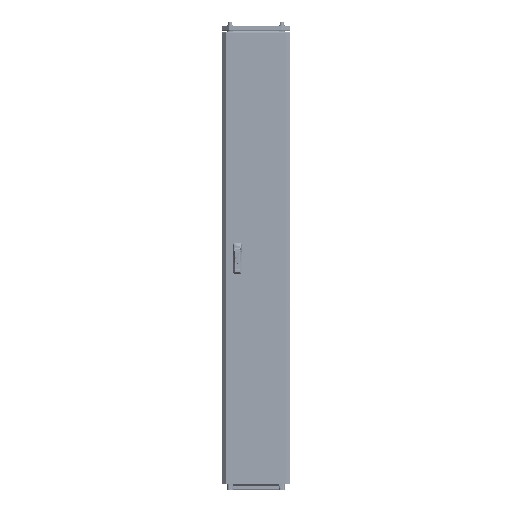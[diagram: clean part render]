
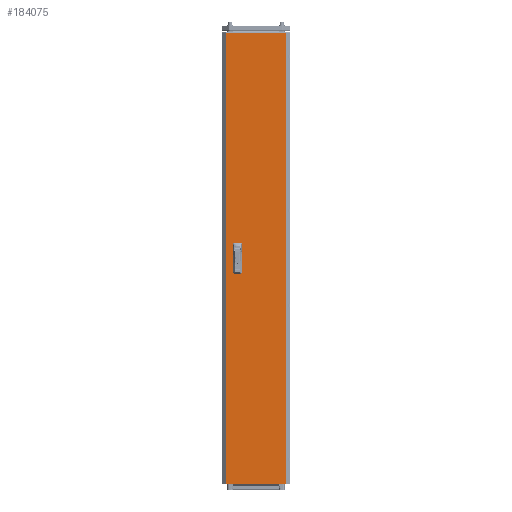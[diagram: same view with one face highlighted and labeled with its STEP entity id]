
A CAD part, top view. The second image highlights one B-rep face of the part: STEP entity #184075.
In plain terms, the highlighted planar face has unit normal (0, 0, 1).
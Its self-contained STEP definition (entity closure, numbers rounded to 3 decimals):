
#2646 = DIRECTION ( 'NONE',  ( 0., 1., 0. ) ) ;
#4007 = VERTEX_POINT ( 'NONE', #4436 ) ;
#4419 = VECTOR ( 'NONE', #153628, 1000. ) ;
#4436 = CARTESIAN_POINT ( 'NONE',  ( -92.5, 62.5, 0. ) ) ;
#4540 = LINE ( 'NONE', #79810, #70711 ) ;
#6419 = CARTESIAN_POINT ( 'NONE',  ( -127.875, 969.5, 0. ) ) ;
#6799 = VERTEX_POINT ( 'NONE', #222761 ) ;
#7492 = ORIENTED_EDGE ( 'NONE', *, *, #32430, .F. ) ;
#8464 = LINE ( 'NONE', #155420, #229746 ) ;
#10800 = EDGE_CURVE ( 'NONE', #78792, #222950, #82112, .T. ) ;
#12077 = CARTESIAN_POINT ( 'NONE',  ( -67.5, -62.5, 0. ) ) ;
#16166 = CARTESIAN_POINT ( 'NONE',  ( -92.5, -12.5, 0. ) ) ;
#17880 = ORIENTED_EDGE ( 'NONE', *, *, #205359, .F. ) ;
#17902 = EDGE_CURVE ( 'NONE', #224902, #4007, #20853, .T. ) ;
#19030 = LINE ( 'NONE', #109101, #136857 ) ;
#20853 = LINE ( 'NONE', #154090, #179262 ) ;
#21277 = DIRECTION ( 'NONE',  ( 1., 0., 0. ) ) ;
#23373 = DIRECTION ( 'NONE',  ( 1., 0., 0. ) ) ;
#24284 = ORIENTED_EDGE ( 'NONE', *, *, #64773, .T. ) ;
#24571 = ORIENTED_EDGE ( 'NONE', *, *, #105999, .F. ) ;
#24816 = EDGE_LOOP ( 'NONE', ( #36610, #24284, #226183, #145940 ) ) ;
#26596 = VERTEX_POINT ( 'NONE', #195194 ) ;
#31262 = ORIENTED_EDGE ( 'NONE', *, *, #17902, .F. ) ;
#32430 = EDGE_CURVE ( 'NONE', #124275, #120979, #171772, .T. ) ;
#35838 = VERTEX_POINT ( 'NONE', #140306 ) ;
#36610 = ORIENTED_EDGE ( 'NONE', *, *, #10800, .T. ) ;
#40170 = CARTESIAN_POINT ( 'NONE',  ( -127.875, -969.5, 0. ) ) ;
#42809 = DIRECTION ( 'NONE',  ( 0., 1., 0. ) ) ;
#45091 = CARTESIAN_POINT ( 'NONE',  ( 127.875, -969.5, 0. ) ) ;
#48321 = LINE ( 'NONE', #16166, #193373 ) ;
#48907 = CARTESIAN_POINT ( 'NONE',  ( -92.5, -62.5, 0. ) ) ;
#51873 = FACE_BOUND ( 'NONE', #230036, .T. ) ;
#59621 = VERTEX_POINT ( 'NONE', #78184 ) ;
#64773 = EDGE_CURVE ( 'NONE', #222950, #6799, #143336, .T. ) ;
#69739 = CARTESIAN_POINT ( 'NONE',  ( -67.5, -12.5, 0. ) ) ;
#70711 = VECTOR ( 'NONE', #42809, 1000. ) ;
#71417 = EDGE_CURVE ( 'NONE', #59621, #95169, #195818, .T. ) ;
#75832 = ORIENTED_EDGE ( 'NONE', *, *, #199372, .F. ) ;
#78184 = CARTESIAN_POINT ( 'NONE',  ( -92.5, -12.5, 0. ) ) ;
#78792 = VERTEX_POINT ( 'NONE', #142889 ) ;
#79810 = CARTESIAN_POINT ( 'NONE',  ( -67.5, 12.5, 0. ) ) ;
#82112 = LINE ( 'NONE', #45091, #164430 ) ;
#82265 = DIRECTION ( 'NONE',  ( 0., -1., 0. ) ) ;
#83729 = CARTESIAN_POINT ( 'NONE',  ( -92.5, 12.5, 0. ) ) ;
#92570 = FACE_BOUND ( 'NONE', #214463, .T. ) ;
#93824 = EDGE_CURVE ( 'NONE', #35838, #224902, #4540, .T. ) ;
#95169 = VERTEX_POINT ( 'NONE', #48907 ) ;
#97495 = EDGE_CURVE ( 'NONE', #26596, #78792, #133959, .T. ) ;
#103466 = LINE ( 'NONE', #83729, #134006 ) ;
#105999 = EDGE_CURVE ( 'NONE', #224414, #35838, #103466, .T. ) ;
#108422 = EDGE_CURVE ( 'NONE', #120979, #59621, #48321, .T. ) ;
#108624 = DIRECTION ( 'NONE',  ( -1., 0., 0. ) ) ;
#109101 = CARTESIAN_POINT ( 'NONE',  ( -92.5, 12.5, 0. ) ) ;
#111525 = DIRECTION ( 'NONE',  ( 0., -1., 0. ) ) ;
#114104 = LINE ( 'NONE', #227699, #4419 ) ;
#120979 = VERTEX_POINT ( 'NONE', #69739 ) ;
#122357 = DIRECTION ( 'NONE',  ( -1., 0., 0. ) ) ;
#124275 = VERTEX_POINT ( 'NONE', #12077 ) ;
#127152 = FACE_OUTER_BOUND ( 'NONE', #24816, .T. ) ;
#133193 = EDGE_CURVE ( 'NONE', #6799, #26596, #114104, .T. ) ;
#133959 = LINE ( 'NONE', #40170, #225887 ) ;
#134006 = VECTOR ( 'NONE', #21277, 1000. ) ;
#135194 = DIRECTION ( 'NONE',  ( 1., 0., 0. ) ) ;
#136857 = VECTOR ( 'NONE', #111525, 1000. ) ;
#138895 = DIRECTION ( 'NONE',  ( 0., 1., 0. ) ) ;
#140306 = CARTESIAN_POINT ( 'NONE',  ( -67.5, 12.5, 0. ) ) ;
#142598 = ORIENTED_EDGE ( 'NONE', *, *, #108422, .F. ) ;
#142889 = CARTESIAN_POINT ( 'NONE',  ( 127.875, -969.5, 0. ) ) ;
#143336 = LINE ( 'NONE', #6419, #197864 ) ;
#145940 = ORIENTED_EDGE ( 'NONE', *, *, #97495, .T. ) ;
#153628 = DIRECTION ( 'NONE',  ( 0., -1., 0. ) ) ;
#154090 = CARTESIAN_POINT ( 'NONE',  ( -92.5, 62.5, 0. ) ) ;
#155420 = CARTESIAN_POINT ( 'NONE',  ( -92.5, -62.5, 0. ) ) ;
#156532 = DIRECTION ( 'NONE',  ( -1., 0., 0. ) ) ;
#164430 = VECTOR ( 'NONE', #138895, 1000. ) ;
#167772 = ORIENTED_EDGE ( 'NONE', *, *, #93824, .F. ) ;
#171772 = LINE ( 'NONE', #205110, #185377 ) ;
#179262 = VECTOR ( 'NONE', #156532, 1000. ) ;
#184075 = ADVANCED_FACE ( 'NONE', ( #92570, #51873, #127152 ), #240722, .F. ) ;
#185377 = VECTOR ( 'NONE', #2646, 1000. ) ;
#185927 = CARTESIAN_POINT ( 'NONE',  ( 127.875, 969.5, 0. ) ) ;
#193373 = VECTOR ( 'NONE', #219824, 1000. ) ;
#194196 = CARTESIAN_POINT ( 'NONE',  ( -92.5, 12.5, 0. ) ) ;
#195194 = CARTESIAN_POINT ( 'NONE',  ( -127.875, -969.5, 0. ) ) ;
#195818 = LINE ( 'NONE', #197030, #199777 ) ;
#197030 = CARTESIAN_POINT ( 'NONE',  ( -92.5, -62.5, 0. ) ) ;
#197864 = VECTOR ( 'NONE', #122357, 1000. ) ;
#199372 = EDGE_CURVE ( 'NONE', #4007, #224414, #19030, .T. ) ;
#199777 = VECTOR ( 'NONE', #82265, 1000. ) ;
#202445 = DIRECTION ( 'NONE',  ( 0., 0., -1. ) ) ;
#205110 = CARTESIAN_POINT ( 'NONE',  ( -67.5, -62.5, 0. ) ) ;
#205359 = EDGE_CURVE ( 'NONE', #95169, #124275, #8464, .T. ) ;
#214452 = AXIS2_PLACEMENT_3D ( 'NONE', #218533, #202445, #108624 ) ;
#214463 = EDGE_LOOP ( 'NONE', ( #31262, #167772, #24571, #75832 ) ) ;
#215884 = ORIENTED_EDGE ( 'NONE', *, *, #71417, .F. ) ;
#218533 = CARTESIAN_POINT ( 'NONE',  ( 0., 0., 0. ) ) ;
#219824 = DIRECTION ( 'NONE',  ( -1., 0., 0. ) ) ;
#222761 = CARTESIAN_POINT ( 'NONE',  ( -127.875, 969.5, 0. ) ) ;
#222950 = VERTEX_POINT ( 'NONE', #185927 ) ;
#224414 = VERTEX_POINT ( 'NONE', #194196 ) ;
#224902 = VERTEX_POINT ( 'NONE', #232154 ) ;
#225887 = VECTOR ( 'NONE', #135194, 1000. ) ;
#226183 = ORIENTED_EDGE ( 'NONE', *, *, #133193, .T. ) ;
#227699 = CARTESIAN_POINT ( 'NONE',  ( -127.875, -969.5, 0. ) ) ;
#229746 = VECTOR ( 'NONE', #23373, 1000. ) ;
#230036 = EDGE_LOOP ( 'NONE', ( #142598, #7492, #17880, #215884 ) ) ;
#232154 = CARTESIAN_POINT ( 'NONE',  ( -67.5, 62.5, 0. ) ) ;
#240722 = PLANE ( 'NONE',  #214452 ) ;
